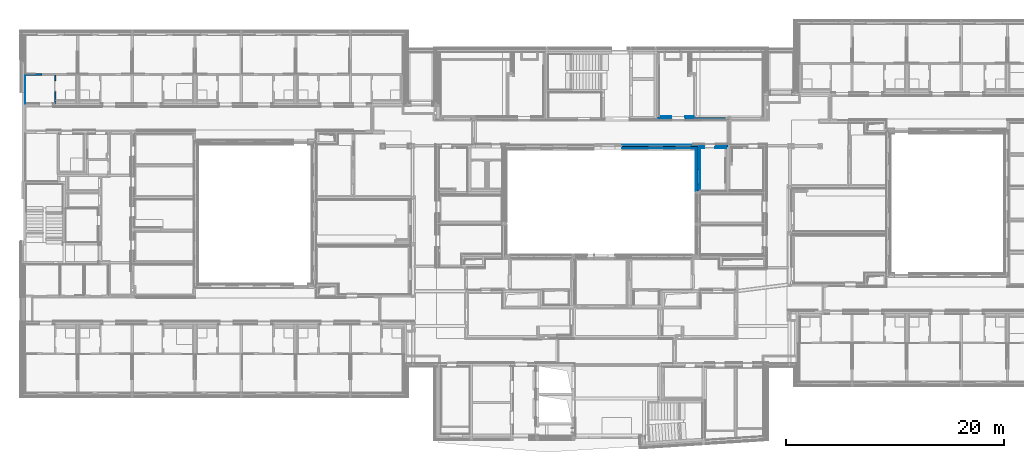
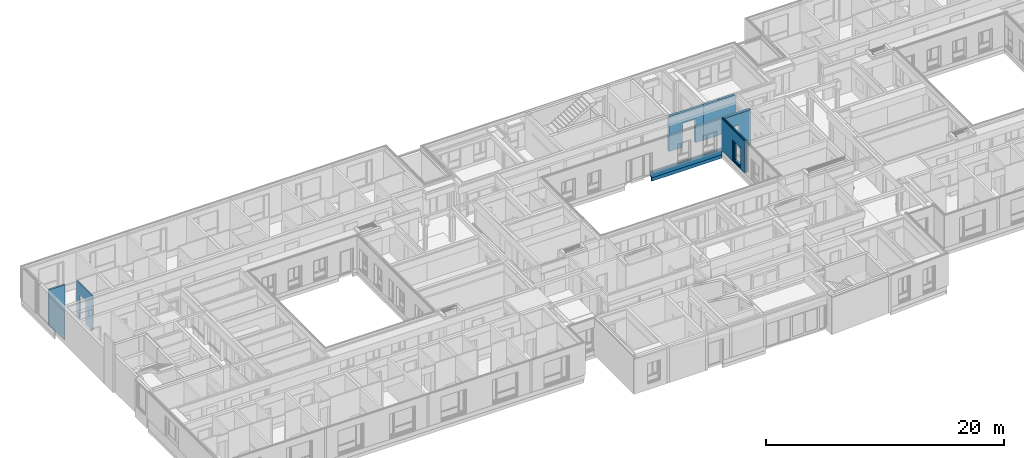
# One storey, part 36 of 207: 19 walls, 12 openings.
"""IFC4 building model written with IfcOpenShell, lengths in metres."""

from ifc_helpers import new_model, entity, si_unit, converted_unit, derived_unit, frame, frame_2d, origin, origin_with_axes, place, context, subcontext, project, spatial, polyline, rectangle, outline, extrude, clip, bounded_halfspace, material, element, save


model = new_model("IFC4")

# Units and contexts
model_context = context("Model", 3, precision=1e-05, world=origin())
body_context = subcontext(model_context, "Body", "Model", "MODEL_VIEW")
ifc_project = project(units=[si_unit("LENGTHUNIT", "METRE"), si_unit("AREAUNIT", "SQUARE_METRE"), si_unit("VOLUMEUNIT", "CUBIC_METRE"), si_unit("MASSUNIT", "GRAM", prefix="KILO"), converted_unit("PLANEANGLEUNIT", "DEGREE", entity("IfcPlaneAngleMeasure", 0.0174532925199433), si_unit("PLANEANGLEUNIT", "RADIAN"), dimensions=[0, 0, 0, 0, 0, 0, 0]), derived_unit("THERMALTRANSMITTANCEUNIT", [(si_unit("POWERUNIT", "WATT"), 1), (si_unit("THERMODYNAMICTEMPERATUREUNIT", "KELVIN"), -1), (si_unit("LENGTHUNIT", "METRE"), -2)]), derived_unit("VOLUMETRICFLOWRATEUNIT", [(si_unit("LENGTHUNIT", "METRE"), 3), (converted_unit("TIMEUNIT", "hour", entity("IfcTimeMeasure", 3600.0), si_unit("TIMEUNIT", "SECOND"), dimensions=[0, 0, 1, 0, 0, 0, 0]), -1), (si_unit("LENGTHUNIT", "METRE"), -1)])], contexts=[model_context])

# Site, building, storey
site_placement = place(None, origin())
site = spatial("IfcSite", under=ifc_project, at=site_placement, Name="Psychiatrie Neubau Wunstorf", CompositionType="ELEMENT")
building_placement = place(site_placement, origin())
building = spatial("IfcBuilding", under=site, at=building_placement, Name="Neubau H2 Stationsgebäude", CompositionType="ELEMENT")
storey_placement = place(building_placement, frame((0.0, 0.0, -0.2)))
storey = spatial("IfcBuildingStorey", under=building, at=storey_placement, Name="H2 Ebene 0", CompositionType="ELEMENT", Elevation=-0.2)

# Wall, opening
ifc_material_1 = material(Name="WA-LB")
wall_1_placement = place(storey_placement, frame((62.0610000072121, 16.336000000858, 0.5), z_axis=(0.0, 0.0, 1.0), x_axis=(1.72661628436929e-15, 1.0, 0.0)))
wall_1 = element("IfcWall", 1, at=wall_1_placement, inside=storey, material=ifc_material_1, context=body_context, shape_type="SweptSolid", body=[
    extrude(rectangle(XDim=4.21399802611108, YDim=0.036, at=frame_2d((2.10699901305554, 0.018), x_axis=(1.0, 0.0))), origin_with_axes(), (0.0, 0.0, 1.0), 3.1),
])
opening_1_placement = place(wall_1_placement, frame((0.632998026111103, 0.0, 0.1), z_axis=(-3.15796771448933e-15, 1.0, 0.0), x_axis=(0.0, 0.0, 1.0)))
element("IfcOpeningElement", 2, at=opening_1_placement, cuts=wall_1, Name="Fensteröffnung", ObjectType="Opening", context=body_context, shape_type="SweptSolid", body=[
    extrude(outline(polyline([(2.12, 1.35), (2.12, 0.0), (0.0, 0.0), (0.0, 1.35), (2.12, 1.35)])), origin_with_axes(), (0.0, 0.0, 1.0), 0.036),
])

ifc_material_2 = material(Name="WA-HD")
wall_2_placement = place(storey_placement, frame((62.0250000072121, 16.336000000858, 0.5), z_axis=(0.0, 0.0, 1.0), x_axis=(1.7947610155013e-15, 1.0, 0.0)))
wall_2 = element("IfcWall", 3, at=wall_2_placement, inside=storey, material=ifc_material_2, context=body_context, shape_type="SweptSolid", body=[
    extrude(rectangle(XDim=4.0539980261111, YDim=0.16, at=frame_2d((2.02699901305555, 0.08), x_axis=(1.0, 0.0))), origin_with_axes(), (0.0, 0.0, 1.0), 3.1),
])
opening_2_placement = place(wall_2_placement, frame((0.632998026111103, 0.0, 0.1), z_axis=(-2.1316282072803e-15, 1.0, 0.0), x_axis=(0.0, 0.0, 1.0)))
element("IfcOpeningElement", 4, at=opening_2_placement, cuts=wall_2, Name="Fensteröffnung", ObjectType="Opening", context=body_context, shape_type="SweptSolid", body=[
    extrude(outline(polyline([(2.12, 1.35), (2.12, 0.0), (0.0, 0.0), (0.0, 1.35), (2.12, 1.35)])), origin_with_axes(), (0.0, 0.0, 1.0), 0.16),
])

ifc_material_3 = material(Name="WA-DL")
wall_3_placement = place(storey_placement, frame((61.8650000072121, 16.336000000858, 0.5), z_axis=(0.0, 0.0, 1.0), x_axis=(1.82172288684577e-15, 1.0, 0.0)))
wall_3 = element("IfcWall", 5, at=wall_3_placement, inside=storey, material=ifc_material_3, context=body_context, shape_type="SweptSolid", body=[
    extrude(rectangle(XDim=3.9939980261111, YDim=0.08, at=frame_2d((1.99699901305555, 0.04), x_axis=(1.0, 0.0))), origin_with_axes(), (0.0, 0.0, 1.0), 3.3),
])
opening_3_placement = place(wall_3_placement, frame((0.632998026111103, 0.0, 0.1), z_axis=(-1.4210854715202e-15, 1.0, 0.0), x_axis=(0.0, 0.0, 1.0)))
element("IfcOpeningElement", 6, at=opening_3_placement, cuts=wall_3, Name="Fensteröffnung", ObjectType="Opening", context=body_context, shape_type="SweptSolid", body=[
    extrude(outline(polyline([(2.12, 1.35), (2.12, 0.0), (0.0, 0.0), (0.0, 1.35), (2.12, 1.35)])), origin_with_axes(), (0.0, 0.0, 1.0), 0.08),
])

ifc_material_4 = material(Name="WA-LB")
wall_4_placement = place(storey_placement, frame((61.7850000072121, 16.336000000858, 0.5), z_axis=(0.0, 0.0, 1.0), x_axis=(1.85895791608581e-15, 1.0, 0.0)))
wall_4 = element("IfcWall", 7, at=wall_4_placement, inside=storey, material=ifc_material_4, context=body_context, shape_type="SweptSolid", body=[
    extrude(rectangle(XDim=3.91399802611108, YDim=0.036, at=frame_2d((1.95699901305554, 0.018), x_axis=(1.0, 0.0))), origin_with_axes(), (0.0, 0.0, 1.0), 3.3),
])
opening_4_placement = place(wall_4_placement, frame((0.632998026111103, 0.0, 0.1), z_axis=(-3.15796771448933e-15, 1.0, 0.0), x_axis=(0.0, 0.0, 1.0)))
element("IfcOpeningElement", 8, at=opening_4_placement, cuts=wall_4, Name="Fensteröffnung", ObjectType="Opening", context=body_context, shape_type="SweptSolid", body=[
    extrude(outline(polyline([(2.12, 1.35), (2.12, 0.0), (0.0, 0.0), (0.0, 1.35), (2.12, 1.35)])), origin_with_axes(), (0.0, 0.0, 1.0), 0.036),
])

ifc_material_5 = material(Name="WA-KL")
wall_5_placement = place(storey_placement, frame((61.7490000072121, 16.336000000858, 0.5), z_axis=(0.0, 0.0, 1.0), x_axis=(1.87621488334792e-15, 1.0, 0.0)))
wall_5 = element("IfcWall", 9, at=wall_5_placement, inside=storey, material=ifc_material_5, context=body_context, shape_type="SweptSolid", body=[
    extrude(rectangle(XDim=3.87799802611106, YDim=0.024, at=frame_2d((1.93899901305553, 0.012), x_axis=(1.0, 0.0))), origin_with_axes(), (0.0, 0.0, 1.0), 3.3),
])
opening_5_placement = place(wall_5_placement, frame((0.632998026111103, 0.0, 0.1), z_axis=(0.0, 1.0, 0.0), x_axis=(0.0, 0.0, 1.0)))
element("IfcOpeningElement", 10, at=opening_5_placement, cuts=wall_5, Name="Fensteröffnung", ObjectType="Opening", context=body_context, shape_type="SweptSolid", body=[
    extrude(outline(polyline([(2.12, 1.35), (2.12, 0.0), (0.0, 0.0), (0.0, 1.35), (2.12, 1.35)])), origin_with_axes(), (0.0, 0.0, 1.0), 0.024),
])

ifc_material_6 = material(Name="WA-TL")
wall_6_placement = place(storey_placement, frame((61.7250000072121, 16.336000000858, 0.5), z_axis=(0.0, 0.0, 1.0), x_axis=(1.88789863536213e-15, 1.0, 0.0)))
wall_6 = element("IfcWall", 11, at=wall_6_placement, inside=storey, material=ifc_material_6, context=body_context, shape_type="SweptSolid", body=[
    extrude(rectangle(XDim=3.85399802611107, YDim=0.024, at=frame_2d((1.92699901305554, 0.012), x_axis=(1.0, 0.0))), origin_with_axes(), (0.0, 0.0, 1.0), 3.3),
])
opening_6_placement = place(wall_6_placement, frame((0.632998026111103, 0.0, 0.1), z_axis=(0.0, 1.0, 0.0), x_axis=(0.0, 0.0, 1.0)))
element("IfcOpeningElement", 12, at=opening_6_placement, cuts=wall_6, Name="Fensteröffnung", ObjectType="Opening", context=body_context, shape_type="SweptSolid", body=[
    extrude(outline(polyline([(2.12, 1.35), (2.12, 0.0), (0.0, 0.0), (0.0, 1.35), (2.12, 1.35)])), origin_with_axes(), (0.0, 0.0, 1.0), 0.024),
])

ifc_material_7 = material(Name="WA-HS")
wall_7_placement = place(storey_placement, frame((61.7010000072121, 16.336000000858, 0.5), z_axis=(0.0, 0.0, 1.0), x_axis=(1.89972881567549e-15, 1.0, 0.0)))
wall_7 = element("IfcWall", 13, at=wall_7_placement, inside=storey, material=ifc_material_7, context=body_context, shape_type="SweptSolid", body=[
    extrude(rectangle(XDim=3.82999802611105, YDim=0.042, at=frame_2d((1.91499901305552, 0.021), x_axis=(1.0, 0.0))), origin_with_axes(), (0.0, 0.0, 1.0), 3.3),
])
opening_7_placement = place(wall_7_placement, frame((0.632998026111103, 0.0, 0.1), z_axis=(-2.70682946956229e-15, 1.0, 0.0), x_axis=(0.0, 0.0, 1.0)))
element("IfcOpeningElement", 14, at=opening_7_placement, cuts=wall_7, Name="Fensteröffnung", ObjectType="Opening", context=body_context, shape_type="SweptSolid", body=[
    extrude(outline(polyline([(2.12, 1.35), (2.12, 0.0), (0.0, 0.0), (0.0, 1.35), (2.12, 1.35)])), origin_with_axes(), (0.0, 0.0, 1.0), 0.042),
])

# Walls
ifc_material_8 = material(Name="WA-LB")
wall_8_placement = place(storey_placement, frame((62.0400000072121, 20.5859980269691, 0.0), z_axis=(0.0, 0.0, 1.0), x_axis=(-1.0, 0.0, 0.0)))
element("IfcWall", 15, at=wall_8_placement, inside=storey, material=ifc_material_8, context=body_context, shape_type="SweptSolid", body=[
    extrude(rectangle(XDim=7.11738818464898, YDim=0.021, at=frame_2d((3.55869409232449, 0.0105), x_axis=(1.0, 0.0))), origin_with_axes(), (0.0, 0.0, 1.0), 0.5),
])
ifc_material_9 = material(Name="WA-STB")
wall_9_placement = place(storey_placement, frame((61.8650000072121, 20.5649980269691, 0.0), z_axis=(0.0, 0.0, 1.0), x_axis=(-1.0, 0.0, 0.0)))
element("IfcWall", 16, at=wall_9_placement, inside=storey, material=ifc_material_9, context=body_context, shape_type="SweptSolid", body=[
    extrude(rectangle(XDim=6.94238818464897, YDim=0.175, at=frame_2d((3.47119409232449, 0.0875), x_axis=(1.0, 0.0))), origin_with_axes(), (0.0, 0.0, 1.0), 0.5),
])
ifc_material_10 = material(Name="WA-DE")
wall_10_placement = place(storey_placement, frame((61.7450000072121, 20.3899980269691, -0.36), z_axis=(0.0, 0.0, 1.0), x_axis=(-1.0, 0.0, 0.0)))
element("IfcWall", 17, at=wall_10_placement, inside=storey, material=ifc_material_10, context=body_context, shape_type="SweptSolid", body=[
    extrude(rectangle(XDim=6.82238818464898, YDim=0.12, at=frame_2d((3.41119409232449, 0.06), x_axis=(1.0, 0.0))), origin_with_axes(), (0.0, 0.0, 1.0), 0.86),
])
ifc_material_11 = material(Name="WA-LB")
wall_11_placement = place(storey_placement, frame((61.7300000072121, 20.2699980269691, 0.0), z_axis=(0.0, 0.0, 1.0), x_axis=(-1.0, 0.0, 0.0)))
element("IfcWall", 18, at=wall_11_placement, inside=storey, material=ifc_material_11, context=body_context, shape_type="SweptSolid", body=[
    extrude(rectangle(XDim=6.80738818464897, YDim=0.015, at=frame_2d((3.40369409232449, 0.0075), x_axis=(1.0, 0.0))), origin_with_axes(), (0.0, 0.0, 1.0), 0.5),
])
ifc_material_12 = material(Name="WI-HW 60")
wall_12_placement = place(storey_placement, frame((61.464, 22.8639999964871, 0.0)))
element("IfcWall", 19, at=wall_12_placement, inside=storey, material=ifc_material_12, context=body_context, shape_type="Clipping", body=[
    clip(clip(extrude(rectangle(XDim=3.116, YDim=0.232, at=frame_2d((1.558, 0.116), x_axis=(1.0, 0.0))), origin_with_axes(), (0.0, 0.0, 1.0), 3.6), bounded_halfspace(frame((3.03225000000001, 0.116000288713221, 3.3), z_axis=(0.0, 0.0, -1.0), x_axis=(0.0, 1.0, 0.0)), True, origin_with_axes(), polyline([(3.116, 0.0360001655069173), (3.116, 0.196000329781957), (2.94850007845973, 0.196000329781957), (2.94849992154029, 0.0360003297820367), (3.116, 0.0360001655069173)]))), bounded_halfspace(frame((0.754250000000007, 0.116, 3.56), z_axis=(0.0, 0.0, -1.0), x_axis=(1.0, 0.0, 0.0)), True, origin_with_axes(), polyline([(0.0, 0.0), (1.50850000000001, 0.0), (1.50850000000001, 0.232), (0.0, 0.232), (0.0, 0.0)]))),
])
ifc_material_13 = material(Name="WI-LB")
wall_13_placement = place(storey_placement, frame((0.169, 26.9395, 0.0), z_axis=(0.0, 0.0, 1.0), x_axis=(-6.5841797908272e-17, -1.0, 0.0)))
element("IfcWall", 20, at=wall_13_placement, inside=storey, material=ifc_material_13, context=body_context, shape_type="SweptSolid", body=[
    extrude(rectangle(XDim=2.58999999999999, YDim=0.04, at=frame_2d((1.295, 0.02), x_axis=(1.0, 0.0))), origin_with_axes(), (0.0, 0.0, 1.0), 2.95),
])

# Wall, opening
ifc_material_14 = material(Name="WI-LB")
wall_14_placement = place(storey_placement, frame((2.875, 26.9645, 0.0), z_axis=(0.0, 0.0, 1.0), x_axis=(0.0, -1.0, 0.0)))
wall_14 = element("IfcWall", 21, at=wall_14_placement, inside=storey, material=ifc_material_14, context=body_context, shape_type="SweptSolid", body=[
    extrude(rectangle(XDim=2.61499999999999, YDim=0.125, at=frame_2d((1.3075, 0.0625), x_axis=(1.0, 0.0))), origin_with_axes(), (0.0, 0.0, 1.0), 3.6),
])
opening_8_placement = place(wall_14_placement, frame((1.51, 0.125, 0.0), z_axis=(0.0, -1.0, 0.0), x_axis=(0.0, 0.0, 1.0)))
element("IfcOpeningElement", 22, at=opening_8_placement, cuts=wall_14, Name="Türöffnung", ObjectType="Opening", context=body_context, shape_type="SweptSolid", body=[
    extrude(outline(polyline([(2.46, 1.01), (2.46, 0.0), (0.0, 0.0), (0.0, 1.01), (2.46, 1.01)])), origin_with_axes(), (0.0, 0.0, 1.0), 0.125),
])

# Wall
ifc_material_15 = material(Name="WI-LB")
wall_15_placement = place(storey_placement, frame((0.169, 26.9395, 0.0)))
element("IfcWall", 23, at=wall_15_placement, inside=storey, material=ifc_material_15, context=body_context, shape_type="SweptSolid", body=[
    extrude(rectangle(XDim=1.57499999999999, YDim=0.15, at=frame_2d((0.787499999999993, 0.075), x_axis=(1.0, 0.0))), origin_with_axes(), (0.0, 0.0, 1.0), 3.6),
])

# Wall, opening
ifc_material_16 = material(Name="WI-HW 60")
wall_16_placement = place(storey_placement, frame((58.1, 22.8649999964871, 0.0)))
wall_16 = element("IfcWall", 24, at=wall_16_placement, inside=storey, material=ifc_material_16, context=body_context, shape_type="Clipping", body=[
    clip(extrude(outline(polyline([(0.0, 0.0), (3.364, 0.0), (3.364, 0.232), (0.225, 0.232), (0.225, 0.231), (0.0, 0.231), (0.0, 0.0)])), origin_with_axes(), (0.0, 0.0, 1.0), 3.6), bounded_halfspace(frame((2.13700000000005, 0.116, 3.56), z_axis=(0.0, 0.0, -1.0), x_axis=(0.0, 1.0, 0.0)), True, origin_with_axes(), polyline([(3.364, 0.0), (3.364, 0.232), (0.910000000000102, 0.232), (0.910000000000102, 0.0), (3.364, 0.0)]))),
])
opening_9_placement = place(wall_16_placement, frame((1.325, 0.0, 0.0), z_axis=(0.0, 1.0, 0.0), x_axis=(0.0, 0.0, 1.0)))
element("IfcOpeningElement", 25, at=opening_9_placement, cuts=wall_16, Name="Türöffnung", ObjectType="Opening", context=body_context, shape_type="SweptSolid", body=[
    extrude(outline(polyline([(2.46, 1.259), (2.46, 0.0), (0.0, 0.0), (0.0, 1.259), (2.46, 1.259)])), origin_with_axes(), (0.0, 0.0, 1.0), 0.232),
])

ifc_material_17 = material(Name="WI-LB")
wall_17_placement = place(storey_placement, frame((58.325, 23.0969999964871, 0.0)))
wall_17 = element("IfcWall", 26, at=wall_17_placement, inside=storey, material=ifc_material_17, context=body_context, shape_type="Clipping", body=[
    clip(extrude(rectangle(XDim=3.139, YDim=0.075, at=frame_2d((1.5695, 0.0375), x_axis=(1.0, 0.0))), origin_with_axes(), (0.0, 0.0, 1.0), 2.9), bounded_halfspace(frame((1.91200000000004, 0.0375, 2.86), z_axis=(0.0, 0.0, -1.0), x_axis=(0.0, -1.0, 0.0)), True, origin_with_axes(), polyline([(0.685000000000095, 0.075), (0.685000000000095, 0.0), (3.13899999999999, 0.0), (3.13899999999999, 0.075), (0.685000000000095, 0.075)]))),
])
opening_10_placement = place(wall_17_placement, frame((1.1, 0.0, 0.0), z_axis=(0.0, 1.0, 0.0), x_axis=(0.0, 0.0, 1.0)))
element("IfcOpeningElement", 27, at=opening_10_placement, cuts=wall_17, Name="Türöffnung", ObjectType="Opening", context=body_context, shape_type="SweptSolid", body=[
    extrude(outline(polyline([(2.46, 1.259), (2.46, 0.0), (0.0, 0.0), (0.0, 1.259), (2.46, 1.259)])), origin_with_axes(), (0.0, 0.0, 1.0), 0.075),
])

ifc_material_18 = material(Name="WI-HW 60")
wall_18_placement = place(storey_placement, frame((64.61, 20.5859980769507, 0.0), z_axis=(0.0, 0.0, 1.0), x_axis=(-1.0, 0.0, 0.0)))
wall_18 = element("IfcWall", 28, at=wall_18_placement, inside=storey, material=ifc_material_18, context=body_context, shape_type="SweptSolid", body=[
    extrude(rectangle(XDim=2.54899999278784, YDim=0.231999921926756, at=frame_2d((1.27449999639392, 0.115999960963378), x_axis=(1.0, 0.0))), origin_with_axes(), (0.0, 0.0, 1.0), 3.6),
])
opening_11_placement = place(wall_18_placement, frame((1.14999998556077, 0.0, 0.0), z_axis=(0.0, 1.0, 0.0), x_axis=(0.0, 0.0, 1.0)))
element("IfcOpeningElement", 29, at=opening_11_placement, cuts=wall_18, Name="Türöffnung", ObjectType="Opening", context=body_context, shape_type="SweptSolid", body=[
    extrude(outline(polyline([(2.46, 1.01), (2.46, 0.0), (0.0, 0.0), (0.0, 1.01), (2.46, 1.01)])), origin_with_axes(), (0.0, 0.0, 1.0), 0.231999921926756),
])

ifc_material_19 = material(Name="WI-LB")
wall_19_placement = place(storey_placement, frame((64.46, 20.3539981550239, 0.0), z_axis=(0.0, 0.0, 1.0), x_axis=(-1.0, 0.0, 0.0)))
wall_19 = element("IfcWall", 30, at=wall_19_placement, inside=storey, material=ifc_material_19, context=body_context, shape_type="SweptSolid", body=[
    extrude(rectangle(XDim=2.39899999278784, YDim=0.0749999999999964, at=frame_2d((1.19949999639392, 0.0374999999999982), x_axis=(1.0, 0.0))), origin_with_axes(), (0.0, 0.0, 1.0), 3.6),
])
opening_12_placement = place(wall_19_placement, frame((0.999999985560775, 0.0, 0.0), z_axis=(0.0, 1.0, 0.0), x_axis=(0.0, 0.0, 1.0)))
element("IfcOpeningElement", 31, at=opening_12_placement, cuts=wall_19, Name="Türöffnung", ObjectType="Opening", context=body_context, shape_type="SweptSolid", body=[
    extrude(outline(polyline([(2.46, 1.01), (2.46, 0.0), (0.0, 0.0), (0.0, 1.01), (2.46, 1.01)])), origin_with_axes(), (0.0, 0.0, 1.0), 0.0749999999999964),
])

save(model, "model.ifc")
